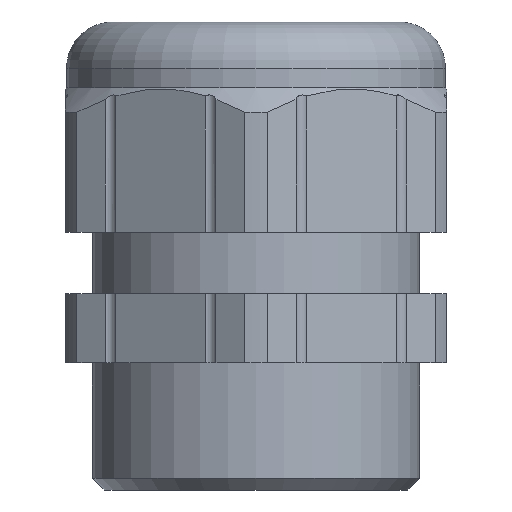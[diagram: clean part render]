
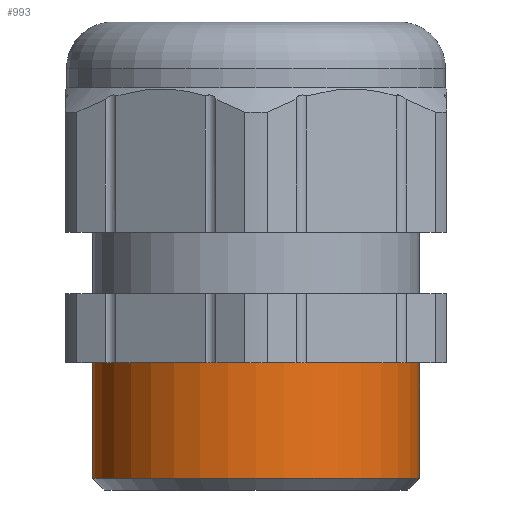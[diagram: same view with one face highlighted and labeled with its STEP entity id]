
A CAD part, front view. The second image highlights one B-rep face of the part: STEP entity #993.
In plain terms, the highlighted cylindrical face has radius 14.15 mm (diameter 28.3 mm), a partial arc.
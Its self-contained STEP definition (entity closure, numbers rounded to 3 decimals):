
#262 = VERTEX_POINT ( 'NONE', #2331 ) ;
#302 = VERTEX_POINT ( 'NONE', #2238 ) ;
#303 = VERTEX_POINT ( 'NONE', #2237 ) ;
#308 = EDGE_CURVE ( 'NONE', #385, #302, #2230, .T. ) ;
#382 = EDGE_CURVE ( 'NONE', #262, #303, #2462, .T. ) ;
#385 = VERTEX_POINT ( 'NONE', #2453 ) ;
#545 = EDGE_CURVE ( 'NONE', #262, #385, #2784, .T. ) ;
#881 = ORIENTED_EDGE ( 'NONE', *, *, #308, .T. ) ;
#882 = ORIENTED_EDGE ( 'NONE', *, *, #992, .F. ) ;
#992 = EDGE_CURVE ( 'NONE', #303, #302, #3320, .T. ) ;
#993 = ADVANCED_FACE ( 'NONE', ( #3311 ), #3310, .T. ) ;
#994 = EDGE_LOOP ( 'NONE', ( #995, #996, #881, #882 ) ) ;
#995 = ORIENTED_EDGE ( 'NONE', *, *, #382, .F. ) ;
#996 = ORIENTED_EDGE ( 'NONE', *, *, #545, .T. ) ;
#2227 = DIRECTION ( 'NONE',  ( 0., 0., -1. ) ) ;
#2228 = VECTOR ( 'NONE', #2227, 1000. ) ;
#2229 = CARTESIAN_POINT ( 'NONE',  ( -14.15, 0., 0. ) ) ;
#2230 = LINE ( 'NONE', #2229, #2228 ) ;
#2237 = CARTESIAN_POINT ( 'NONE',  ( 14.15, 0., 1. ) ) ;
#2238 = CARTESIAN_POINT ( 'NONE',  ( -14.15, 0., 1. ) ) ;
#2331 = CARTESIAN_POINT ( 'NONE',  ( 14.15, 0., 11. ) ) ;
#2453 = CARTESIAN_POINT ( 'NONE',  ( -14.15, 0., 11. ) ) ;
#2459 = DIRECTION ( 'NONE',  ( 0., 0., -1. ) ) ;
#2460 = VECTOR ( 'NONE', #2459, 1000. ) ;
#2461 = CARTESIAN_POINT ( 'NONE',  ( 14.15, 0., 0. ) ) ;
#2462 = LINE ( 'NONE', #2461, #2460 ) ;
#2780 = DIRECTION ( 'NONE',  ( -1., 0., 0. ) ) ;
#2781 = DIRECTION ( 'NONE',  ( 0., 0., -1. ) ) ;
#2782 = CARTESIAN_POINT ( 'NONE',  ( 0., 0., 11. ) ) ;
#2783 = AXIS2_PLACEMENT_3D ( 'NONE', #2782, #2781, #2780 ) ;
#2784 = CIRCLE ( 'NONE', #2783, 14.15 ) ;
#3306 = DIRECTION ( 'NONE',  ( -1., 0., 0. ) ) ;
#3307 = DIRECTION ( 'NONE',  ( 0., 0., -1. ) ) ;
#3308 = CARTESIAN_POINT ( 'NONE',  ( 0., 0., 0. ) ) ;
#3309 = AXIS2_PLACEMENT_3D ( 'NONE', #3308, #3307, #3306 ) ;
#3310 = CYLINDRICAL_SURFACE ( 'NONE', #3309, 14.15 ) ;
#3311 = FACE_OUTER_BOUND ( 'NONE', #994, .T. ) ;
#3312 = DIRECTION ( 'NONE',  ( -1., 0., 0. ) ) ;
#3313 = DIRECTION ( 'NONE',  ( 0., 0., -1. ) ) ;
#3314 = CARTESIAN_POINT ( 'NONE',  ( 0., 0., 1. ) ) ;
#3315 = AXIS2_PLACEMENT_3D ( 'NONE', #3314, #3313, #3312 ) ;
#3320 = CIRCLE ( 'NONE', #3315, 14.15 ) ;
